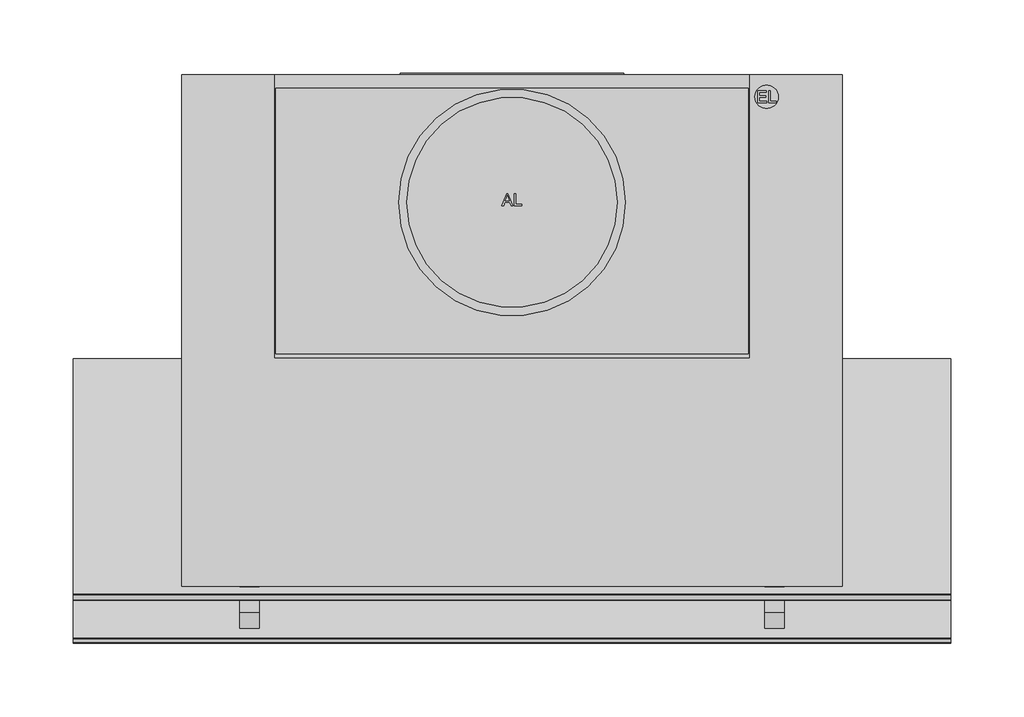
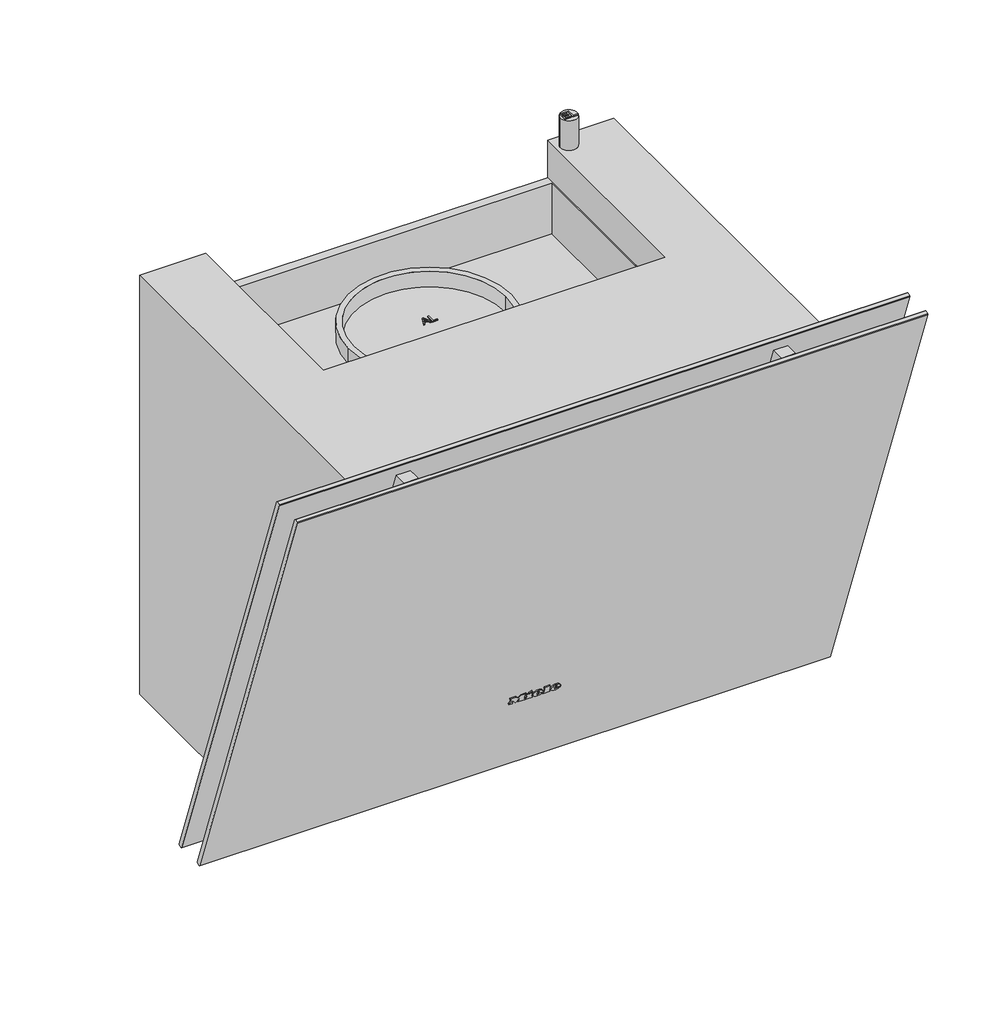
# Not in any storey: 1 proxy.
"""IFC4 building model written with IfcOpenShell, lengths in millimetres."""

from ifc_helpers import new_model, si_unit, origin, place, context, project, spatial, transform, mapped, element, save
from components import specialty_equipment_7f73bf36

model = new_model("IFC4")

# Units and contexts
model_context = context("Model", 3, world=origin())
ifc_project = project(units=[si_unit("LENGTHUNIT", "METRE", prefix="MILLI")], contexts=[model_context])

# Site, building
site = spatial("IfcSite", under=ifc_project)
building = spatial("IfcBuilding", under=site)

# Proxy
placement = place(None, origin())
specialty_equipment_shape = specialty_equipment_7f73bf36(model_context)
element("IfcBuildingElementProxy", 1, Name="12533930_D_DAH2660_GRGR : 28H2660G_D_12533930_DAH2660_GRGR", ObjectType="12533930_D_DAH2660_GRGR : 28H2660G_D_12533930_DAH2660_GRGR", at=placement, inside=building, context=model_context, shape_type="MappedRepresentation", body=[
    mapped(specialty_equipment_shape, transform((0.0, 0.0, 0.0), x_axis=(1.0, 0.0, 0.0), y_axis=(0.0, 1.0, 0.0), z_axis=(0.0, 0.0, 1.0))),
])

save(model, "model.ifc")
